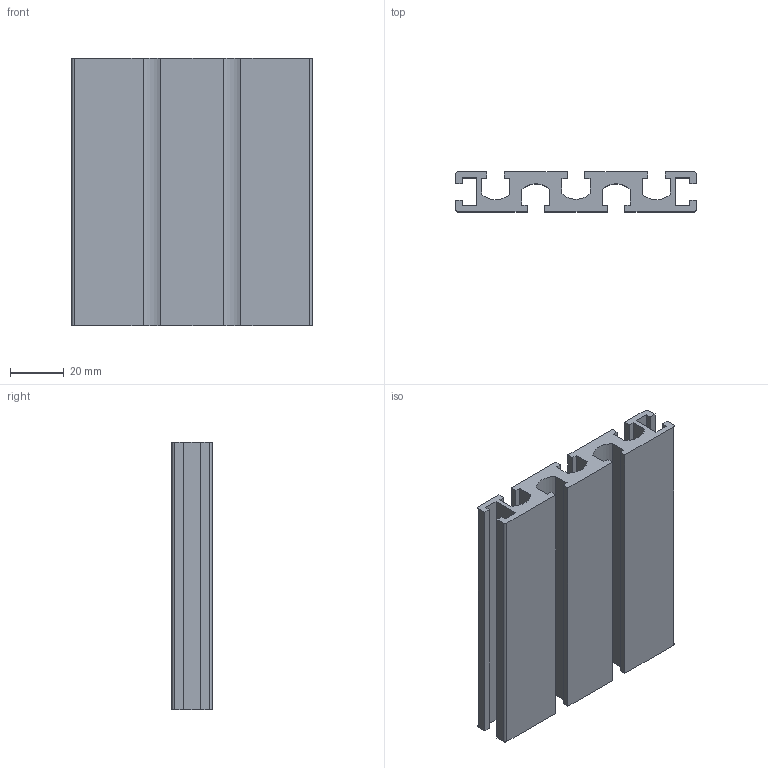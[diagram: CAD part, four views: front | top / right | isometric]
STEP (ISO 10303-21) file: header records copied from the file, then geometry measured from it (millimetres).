
FILE_DESCRIPTION(/* description */ (''),/* implementation_level */ '2;1');
FILE_NAME(/* name */ 'C:\Users\AM\Desktop\新增資料夾 (7)\AM6-1590-100L.ipt.stp',/* time_stamp */ '2020-08-03T15:16:58+08:00',/* author */ ('AM'),/* organization */ (''),/* preprocessor_version */ 'ST-DEVELOPER v16.5',/* originating_system */ 'Autodesk Inventor 2017',/* authorisation */ '');
FILE_SCHEMA (('AUTOMOTIVE_DESIGN { 1 0 10303 214 3 1 1 }'));
Length unit declared in the file: millimetre
Products named in the file (1): 零件2
Bounding box: 90 x 15 x 100 mm (x, y, z)
Volume: 73736.3 mm3; surface area: 39975.2 mm2
Topology: 1 solids, 1 shells, 66 faces, 192 edges, 128 vertices
Faces by surface type: plane 57, cylinder 9
Entity records: 2178 total; most frequent: CARTESIAN_POINT 387, ORIENTED_EDGE 384, DIRECTION 344, EDGE_CURVE 192, LINE 174, VECTOR 174, VERTEX_POINT 128, AXIS2_PLACEMENT_3D 85
